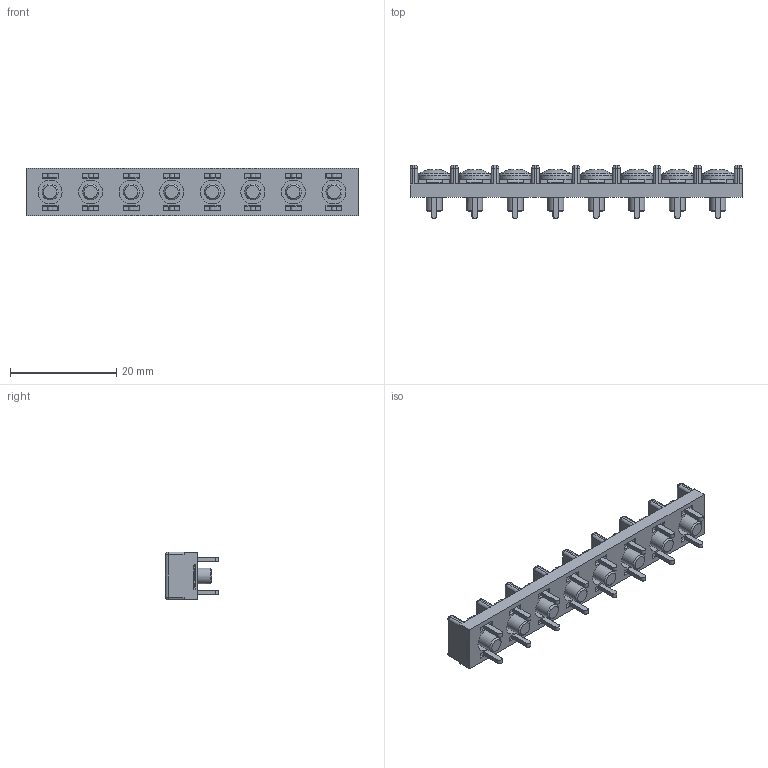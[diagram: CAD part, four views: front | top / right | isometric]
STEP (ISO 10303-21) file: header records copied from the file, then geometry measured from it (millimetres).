
FILE_DESCRIPTION(/* description */ ('Alibre Inc.'),/* implementation_level */ '2;1');
FILE_NAME(/* name */ 'export0',/* time_stamp */ '2015-11-28T15:42:47+09:00',/* author */ (''),/* organization */ (''),/* preprocessor_version */ 'ST-DEVELOPER v14',/* originating_system */ 'Alibre',/* authorisation */ '');
FILE_SCHEMA (('CONFIG_CONTROL_DESIGN'));
Length unit declared in the file: centimetre
Products named in the file (1): ID_1
Bounding box: 62.38 x 10 x 9 mm (x, y, z)
Volume: 2327.1 mm3; surface area: 4280.8 mm2
Topology: 1 solids, 113 shells, 2210 faces, 5692 edges, 3724 vertices
Faces by surface type: plane 1566, bspline 416, cylinder 136, sphere 44, cone 40, torus 8
Full cylindrical faces by diameter (mm): 3 x16, 4.5 x8, 6.1 x8
Entity records: 64011 total; most frequent: CARTESIAN_POINT 15323, ORIENTED_EDGE 11184, DIRECTION 6996, EDGE_CURVE 5592, VECTOR 4180, LINE 4180, VERTEX_POINT 3708, EDGE_LOOP 2398
